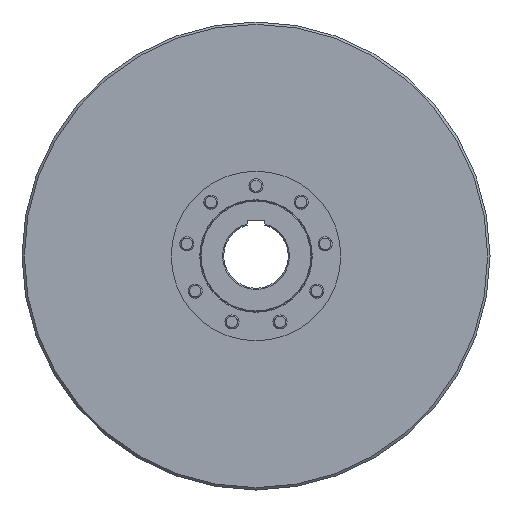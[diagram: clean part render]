
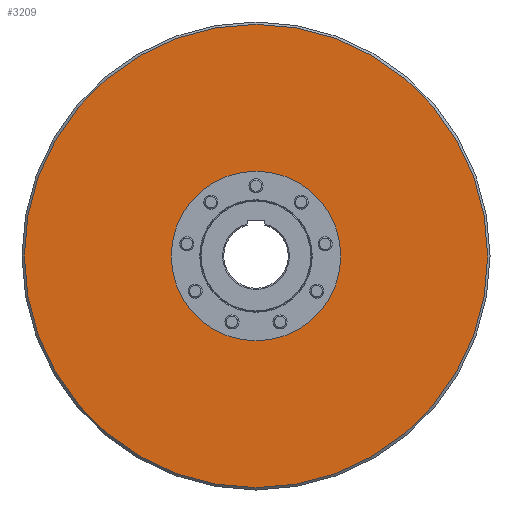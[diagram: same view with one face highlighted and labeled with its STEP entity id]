
A CAD part, left-side view. The second image highlights one B-rep face of the part: STEP entity #3209.
In plain terms, the highlighted planar face has unit normal (-1, 0, 0).
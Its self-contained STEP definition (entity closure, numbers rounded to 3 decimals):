
#477=FACE_BOUND('',#884,.T.);
#643=FACE_OUTER_BOUND('',#883,.T.);
#883=EDGE_LOOP('',(#2113));
#884=EDGE_LOOP('',(#2114));
#1289=CIRCLE('',#3464,198.);
#1290=CIRCLE('',#3465,72.5);
#1455=VERTEX_POINT('',#4821);
#1456=VERTEX_POINT('',#4823);
#1747=EDGE_CURVE('',#1455,#1455,#1289,.T.);
#1748=EDGE_CURVE('',#1456,#1456,#1290,.T.);
#2113=ORIENTED_EDGE('',*,*,#1747,.F.);
#2114=ORIENTED_EDGE('',*,*,#1748,.F.);
#2845=PLANE('',#3463);
#3209=ADVANCED_FACE('',(#643,#477),#2845,.F.);
#3463=AXIS2_PLACEMENT_3D('',#4820,#3871,#3872);
#3464=AXIS2_PLACEMENT_3D('',#4822,#3873,#3874);
#3465=AXIS2_PLACEMENT_3D('',#4824,#3875,#3876);
#3871=DIRECTION('center_axis',(1.,0.,0.));
#3872=DIRECTION('ref_axis',(0.,1.,0.));
#3873=DIRECTION('center_axis',(1.,0.,0.));
#3874=DIRECTION('ref_axis',(0.,-1.,0.));
#3875=DIRECTION('center_axis',(-1.,0.,0.));
#3876=DIRECTION('ref_axis',(0.,-1.,0.));
#4820=CARTESIAN_POINT('Origin',(-81.75,210.485,0.));
#4821=CARTESIAN_POINT('',(-81.75,198.,0.));
#4822=CARTESIAN_POINT('Origin',(-81.75,0.,0.));
#4823=CARTESIAN_POINT('',(-81.75,72.5,0.));
#4824=CARTESIAN_POINT('Origin',(-81.75,0.,
0.));
